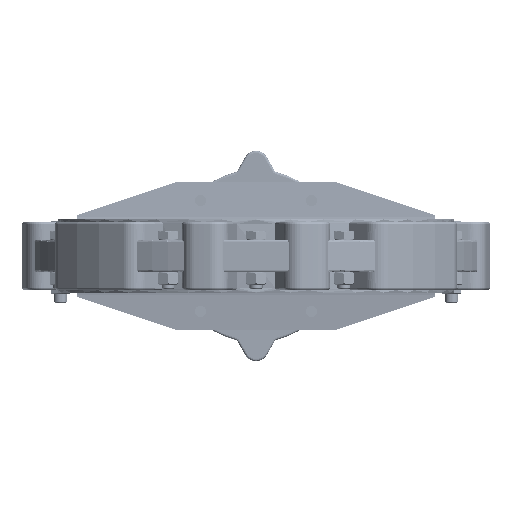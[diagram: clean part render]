
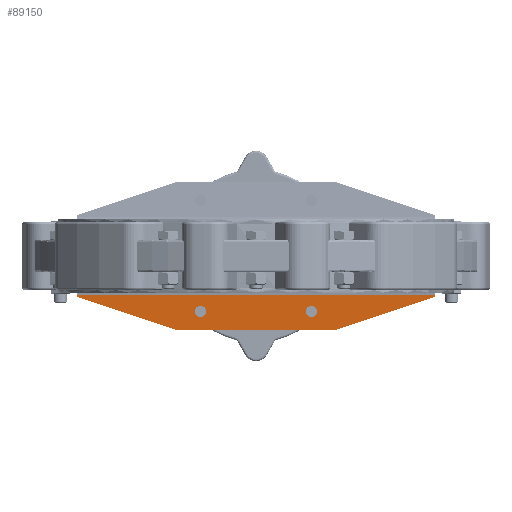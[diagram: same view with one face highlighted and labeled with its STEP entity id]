
A CAD part, front view. The second image highlights one B-rep face of the part: STEP entity #89150.
In plain terms, the highlighted planar face has unit normal (0, -0.998, -0.07).
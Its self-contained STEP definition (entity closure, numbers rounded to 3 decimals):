
#253=ELLIPSE('',#95953,6.934,6.918);
#254=ELLIPSE('',#95954,6.934,6.918);
#255=ELLIPSE('',#95956,6.934,6.918);
#256=ELLIPSE('',#95957,6.934,6.918);
#2600=FACE_BOUND('',#15939,.T.);
#2601=FACE_BOUND('',#15940,.T.);
#4252=PLANE('',#96600);
#10096=FACE_OUTER_BOUND('',#15938,.T.);
#15938=EDGE_LOOP('',(#72585,#72586,#72587,#72588,#72589,#72590));
#15939=EDGE_LOOP('',(#72591,#72592));
#15940=EDGE_LOOP('',(#72593,#72594));
#26341=LINE('',#142586,#32696);
#27132=LINE('',#147980,#33487);
#27196=LINE('',#148330,#33551);
#27197=LINE('',#148333,#33552);
#27200=LINE('',#148339,#33555);
#27209=LINE('',#148370,#33564);
#32696=VECTOR('',#112853,10.);
#33487=VECTOR('',#114220,10.);
#33551=VECTOR('',#114676,10.);
#33552=VECTOR('',#114679,10.);
#33555=VECTOR('',#114686,10.);
#33564=VECTOR('',#114727,10.);
#39846=VERTEX_POINT('',#141207);
#39847=VERTEX_POINT('',#141209);
#39848=VERTEX_POINT('',#141213);
#39849=VERTEX_POINT('',#141215);
#40189=VERTEX_POINT('',#142583);
#40190=VERTEX_POINT('',#142585);
#40880=VERTEX_POINT('',#147977);
#40881=VERTEX_POINT('',#147979);
#40972=VERTEX_POINT('',#148332);
#40973=VERTEX_POINT('',#148338);
#50385=EDGE_CURVE('',#39847,#39846,#253,.T.);
#50386=EDGE_CURVE('',#39846,#39847,#254,.T.);
#50388=EDGE_CURVE('',#39849,#39848,#255,.T.);
#50389=EDGE_CURVE('',#39848,#39849,#256,.T.);
#50793=EDGE_CURVE('',#40189,#40190,#26341,.F.);
#51931=EDGE_CURVE('',#40881,#40880,#27132,.T.);
#52107=EDGE_CURVE('',#40880,#40190,#27196,.T.);
#52108=EDGE_CURVE('',#40881,#40972,#27197,.F.);
#52111=EDGE_CURVE('',#40973,#40972,#27200,.T.);
#52124=EDGE_CURVE('',#40973,#40189,#27209,.T.);
#72585=ORIENTED_EDGE('',*,*,#52124,.F.);
#72586=ORIENTED_EDGE('',*,*,#52111,.T.);
#72587=ORIENTED_EDGE('',*,*,#52108,.F.);
#72588=ORIENTED_EDGE('',*,*,#51931,.T.);
#72589=ORIENTED_EDGE('',*,*,#52107,.T.);
#72590=ORIENTED_EDGE('',*,*,#50793,.F.);
#72591=ORIENTED_EDGE('',*,*,#50385,.T.);
#72592=ORIENTED_EDGE('',*,*,#50386,.T.);
#72593=ORIENTED_EDGE('',*,*,#50388,.T.);
#72594=ORIENTED_EDGE('',*,*,#50389,.T.);
#89150=ADVANCED_FACE('',(#10096,#2600,#2601),#4252,.T.);
#95953=AXIS2_PLACEMENT_3D('',#141210,#112328,#112329);
#95954=AXIS2_PLACEMENT_3D('',#141211,#112330,#112331);
#95956=AXIS2_PLACEMENT_3D('',#141216,#112335,#112336);
#95957=AXIS2_PLACEMENT_3D('',#141217,#112337,#112338);
#96600=AXIS2_PLACEMENT_3D('',#148369,#114725,#114726);
#112328=DIRECTION('center_axis',(0.,0.998,
0.07));
#112329=DIRECTION('ref_axis',(0.,-0.07,
0.998));
#112330=DIRECTION('center_axis',(0.,0.998,
0.07));
#112331=DIRECTION('ref_axis',(0.,-0.07,
0.998));
#112335=DIRECTION('center_axis',(0.,0.998,
0.07));
#112336=DIRECTION('ref_axis',(0.,-0.07,
0.998));
#112337=DIRECTION('center_axis',(0.,0.998,
0.07));
#112338=DIRECTION('ref_axis',(0.,-0.07,
0.998));
#112853=DIRECTION('',(0.,-0.07,0.998));
#114220=DIRECTION('',(1.,0.,0.));
#114676=DIRECTION('',(0.948,-0.022,0.316));
#114679=DIRECTION('',(0.948,0.022,-0.316));
#114686=DIRECTION('',(0.,0.07,-0.998));
#114725=DIRECTION('center_axis',(0.,-0.998,
-0.07));
#114726=DIRECTION('ref_axis',(0.,-0.07,
0.998));
#114727=DIRECTION('',(1.,0.,0.));
#141207=CARTESIAN_POINT('',(74.417,359.427,-67.5));
#141209=CARTESIAN_POINT('',(67.5,359.91,-74.418));
#141210=CARTESIAN_POINT('Origin',(67.5,359.427,-67.5));
#141211=CARTESIAN_POINT('Origin',(67.5,359.427,-67.5));
#141213=CARTESIAN_POINT('',(-60.583,359.427,-67.5));
#141215=CARTESIAN_POINT('',(-67.5,359.91,-74.418));
#141216=CARTESIAN_POINT('Origin',(-67.5,359.427,-67.5));
#141217=CARTESIAN_POINT('Origin',(-67.5,359.427,-67.5));
#142583=CARTESIAN_POINT('',(217.5,357.99,-46.954));
#142585=CARTESIAN_POINT('',(217.5,358.203,-50.));
#142586=CARTESIAN_POINT('',(217.5,358.678,-56.787));
#147977=CARTESIAN_POINT('',(97.5,361.,-90.));
#147979=CARTESIAN_POINT('',(-97.5,361.,-90.));
#147980=CARTESIAN_POINT('',(97.5,361.,-90.));
#148330=CARTESIAN_POINT('',(57.657,361.929,-103.281));
#148332=CARTESIAN_POINT('',(-217.5,358.203,-50.));
#148333=CARTESIAN_POINT('',(-117.628,360.531,-83.291));
#148338=CARTESIAN_POINT('',(-217.5,357.99,-46.954));
#148339=CARTESIAN_POINT('',(-217.5,356.938,-31.908));
#148369=CARTESIAN_POINT('Origin',(0.,359.007,
-61.5));
#148370=CARTESIAN_POINT('',(0.,357.99,-46.954));
